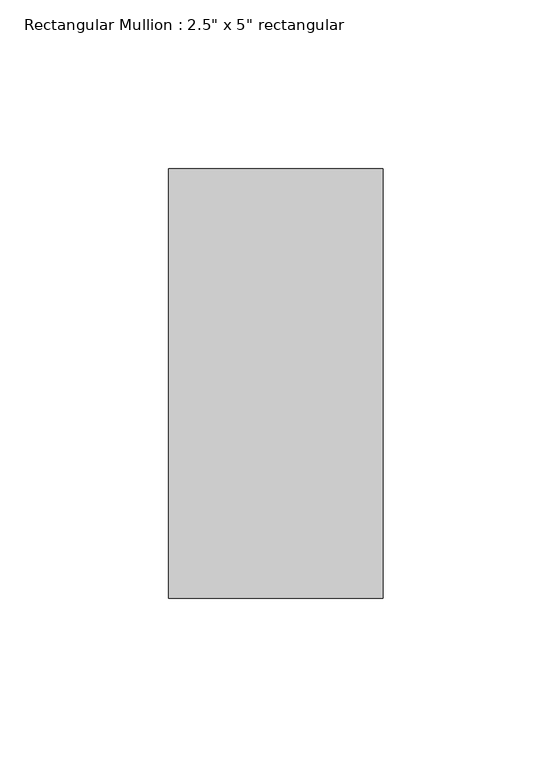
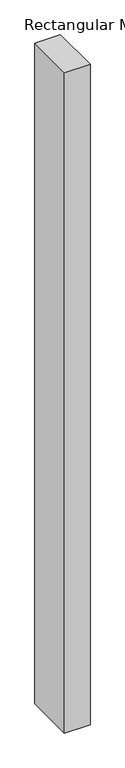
"""IFC4 building model written with IfcOpenShell, lengths in millimetres: member geometry."""

from ifc_helpers import new_model, si_unit, frame, origin, place, context, project, spatial, polyline, outline, extrude, source, transform, mapped, element, save


def member_64ee9188(model_context):
    return source(origin(), model_context, "Body", "SweptSolid", [
        extrude(outline(polyline([(0.0, 63.5), (0.0, -63.5), (-63.5, -63.5), (-63.5, 63.5), (0.0, 63.5)])), frame((0.0, 0.0, -1733.55), z_axis=(0.0, 0.0, 1.0), x_axis=(1.0, 0.0, 0.0)), (0.0, 0.0, 1.0), 1733.55),
    ])


if __name__ == "__main__":
    model = new_model("IFC4")
    model_context = context("Model", 3, world=origin())
    ifc_project = project(units=[si_unit("LENGTHUNIT", "METRE", prefix="MILLI")], contexts=[model_context])
    site = spatial("IfcSite", under=ifc_project)
    building = spatial("IfcBuilding", under=site)
    placement = place(None, origin())
    member_shape = member_64ee9188(model_context)
    element("IfcMember", 1, ObjectType="Rectangular Mullion : 2.5\" x 5\" rectangular", at=placement, inside=building, context=model_context, shape_type="MappedRepresentation", body=[
        mapped(member_shape, transform((0.0, 0.0, 0.0), x_axis=(1.0, 0.0, 0.0), y_axis=(0.0, 1.0, 0.0), z_axis=(0.0, 0.0, 1.0))),
    ])
    save(model, "model.ifc")
